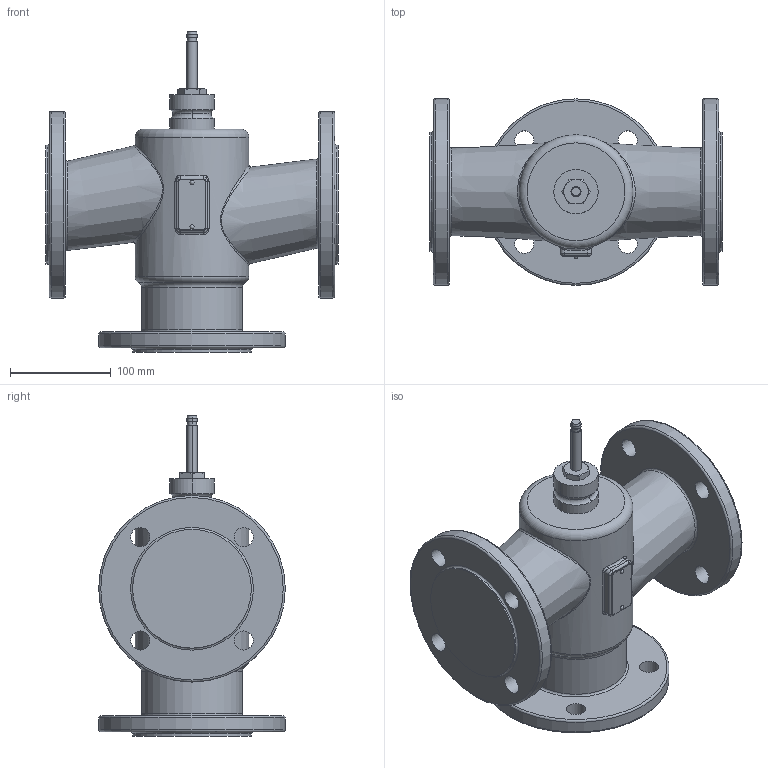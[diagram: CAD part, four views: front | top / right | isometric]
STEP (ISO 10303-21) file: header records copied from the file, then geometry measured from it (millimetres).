
FILE_DESCRIPTION(/* description */ (''),/* implementation_level */ '2;1');
FILE_NAME(/* name */ 'RAS_023460_00.stp',/* time_stamp */ '2013-01-10T09:14:27+01:00',/* author */ (''),/* organization */ (''),/* preprocessor_version */ 'ST-DEVELOPER v11',/* originating_system */ 'SIEMENS UGS NX 6.0',/* authorisation */ '');
FILE_SCHEMA (('AUTOMOTIVE_DESIGN { 1 0 10303 214 1 1 1 1 }'));
Length unit declared in the file: millimetre
Products named in the file (1): RontE95Cebn6
Bounding box: 290 x 185 x 317.7 mm (x, y, z)
Volume: 4315822.7 mm3; surface area: 291476.6 mm2
Topology: 1 solids, 1 shells, 116 faces, 271 edges, 169 vertices
Faces by surface type: cylinder 44, plane 31, torus 19, bspline 12, cone 8, sphere 2
Full cylindrical faces by diameter (mm): 19 x12, 100 x1, 113 x1, 117.8 x3, 185 x3
Entity records: 4196 total; most frequent: CARTESIAN_POINT 1735, DIRECTION 524, ORIENTED_EDGE 432, AXIS2_PLACEMENT_3D 233, EDGE_CURVE 216, EDGE_LOOP 196, VERTEX_POINT 158, FACE_BOUND 132
